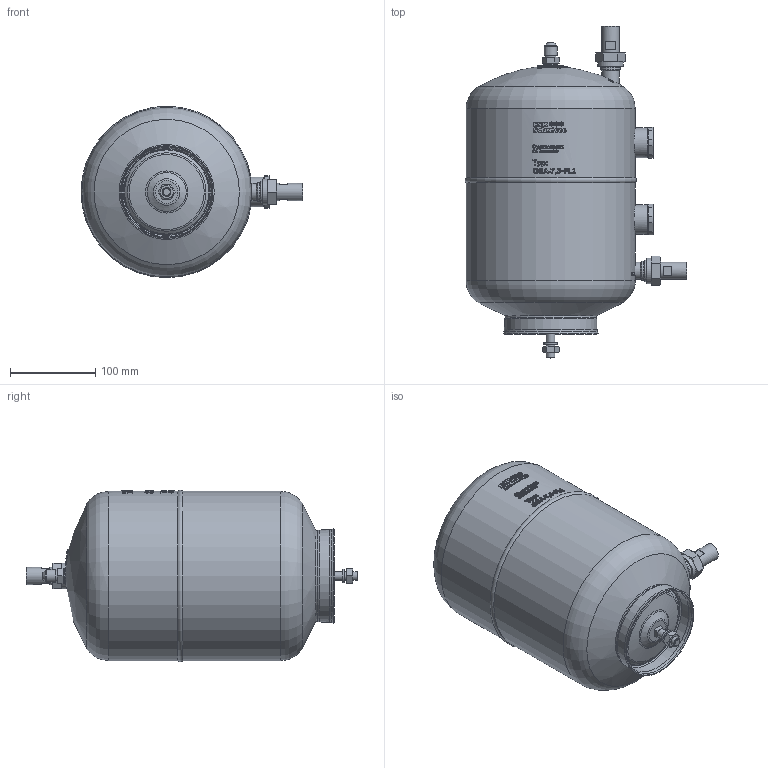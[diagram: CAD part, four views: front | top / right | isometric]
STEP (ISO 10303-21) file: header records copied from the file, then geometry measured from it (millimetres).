
FILE_DESCRIPTION(/* description */ (''),/* implementation_level */ '2;1');
FILE_NAME(/* name */ 'P:\OSA\OSA-7,5-FL1\OSA-7,5-FL1.stp',/* time_stamp */ '2017-10-05T08:51:39+02:00',/* author */ ('neufeld'),/* organization */ (''),/* preprocessor_version */ 'ST-DEVELOPER v16.1',/* originating_system */ 'Autodesk Inventor 2016',/* authorisation */ '');
FILE_SCHEMA (('AUTOMOTIVE_DESIGN { 1 0 10303 214 3 1 1 }'));
Length unit declared in the file: millimetre
Products named in the file (6): OSA-7,5-FL1_1; OSA-7,5-FL1_2; OSA-7,5-FL1_3; OSA-7,5-FL1_4; OSA-7,5-FL1_5; OSA-7,5-FL1
Assembly tree (5 placements, depth 2):
  OSA-7,5-FL1
    OSA-7,5-FL1_1
    OSA-7,5-FL1_2
    OSA-7,5-FL1_3
    OSA-7,5-FL1_4
    OSA-7,5-FL1_5
Bounding box: 259.69 x 388.45 x 200.48 mm (x, y, z)
Volume: 8358994.1 mm3; surface area: 257565.5 mm2
Topology: 6 solids, 6 shells, 1742 faces, 4582 edges, 3024 vertices
Faces by surface type: plane 882, bspline 587, cylinder 154, sphere 55, cone 51, torus 13
Full cylindrical faces by diameter (mm): 7.2 x1, 10 x2, 13.3 x2, 13.5 x4, 15.312 x1, 15.75 x2, 15.87 x2, 16.2 x2, 16.9 x2, 17 x1, 18.1 x2, 19.05 x2, 20 x2, 20.1 x2, 20.5 x2, 22.5 x4, 23.2 x2, 23.6 x2, 24.2 x2, 25.2 x2, 30 x2, 32.974 x1, 33.229 x1, 35 x2, 198 x2
Entity records: 69566 total; most frequent: CARTESIAN_POINT 29739, ORIENTED_EDGE 8992, DIRECTION 6926, EDGE_CURVE 4484, VERTEX_POINT 3011, AXIS2_PLACEMENT_3D 2537, EDGE_LOOP 2007, LINE 1852
